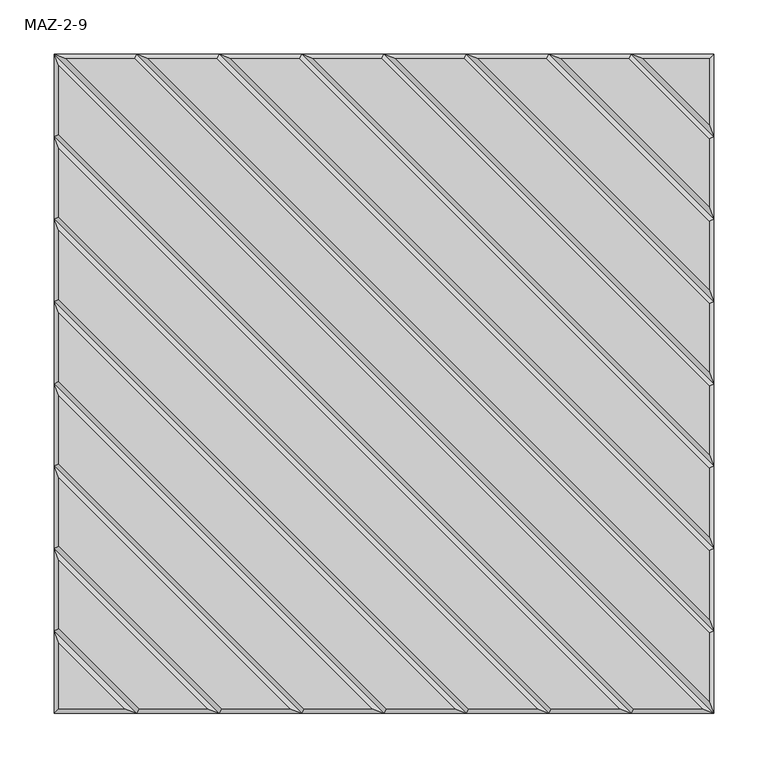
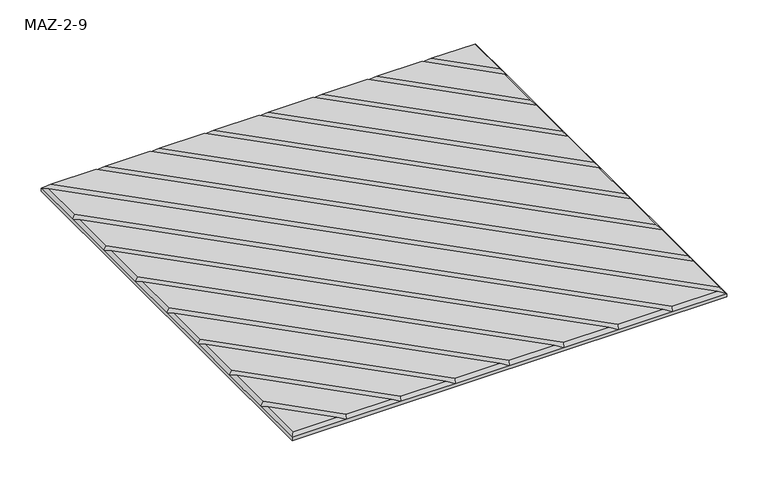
"""IFC4 building model written with IfcOpenShell, lengths in millimetres: proxy geometry, Turf_Wall Tile_Maze : MAZ-2-9."""

from ifc_helpers import new_model, si_unit, origin, place, context, project, spatial, faceted_brep, source, transform, mapped, element, save


def maz_2_9_c834c103(model_context):
    return source(origin(), model_context, "Body", "Brep", [
        faceted_brep([(-304.8, -228.6, 10.85), (-304.8, -152.4, 10.85), (-304.8, -76.2, 10.85), (-304.8, 0.0, 10.85), (-304.8, 76.2, 10.85), (-304.8, 152.4, 10.85), (-304.8, 228.6, 10.85), (-304.8, 304.8, 10.85), (-304.8, 304.8, 6.35), (-304.8, -304.8, 6.35), (-304.8, -304.8, 10.85), (228.6, -304.8, 10.85), (152.4, -304.8, 10.85), (76.2, -304.8, 10.85), (0.0, -304.8, 10.85), (-76.2, -304.8, 10.85), (-152.4, -304.8, 10.85), (-228.6, -304.8, 10.85), (304.8, -304.8, 6.35), (304.8, -304.8, 10.85), (300.3, 300.3, 15.35), (239.463961, 300.3, 15.35), (300.3, 239.463961, 15.35), (304.8, 304.8, 6.35), (-226.736039, -300.3, 15.35), (-300.3, -226.736039, 15.35), (-239.463961, -300.3, 15.35), (-300.3, -239.463961, 15.35), (228.6, 304.8, 10.85), (304.8, 228.6, 10.85), (226.736039, 300.3, 15.35), (300.3, 226.736039, 15.35), (-293.936039, 300.3, 15.35), (300.3, -293.936039, 15.35), (217.736039, -300.3, 15.35), (-300.3, 217.736039, 15.35), (152.4, 304.8, 10.85), (150.536039, 300.3, 15.35), (300.3, 150.536039, 15.35), (304.8, 152.4, 10.85), (-150.536039, -300.3, 15.35), (-300.3, -150.536039, 15.35), (-10.863961, -300.3, 15.35), (-300.3, -10.863961, 15.35), (-76.2, 304.8, 10.85), (-78.063961, 300.3, 15.35), (300.3, -78.063961, 15.35), (304.8, -76.2, 10.85), (-152.4, 304.8, 10.85), (-154.263961, 300.3, 15.35), (300.3, -154.263961, 15.35), (304.8, -152.4, 10.85), (163.263961, 300.3, 15.35), (300.3, 163.263961, 15.35), (-300.3, -300.3, 15.35), (-300.3, 293.936039, 15.35), (-300.3, 230.463961, 15.35), (230.463961, -300.3, 15.35), (293.936039, -300.3, 15.35), (154.263961, -300.3, 15.35), (-300.3, 154.263961, 15.35), (-141.536039, 300.3, 15.35), (300.3, -141.536039, 15.35), (78.063961, -300.3, 15.35), (141.536039, -300.3, 15.35), (-300.3, 141.536039, 15.35), (-300.3, 78.063961, 15.35), (-1.863961, 300.3, 15.35), (-65.336039, 300.3, 15.35), (300.3, -65.336039, 15.35), (300.3, -1.863961, 15.35), (1.863961, -300.3, 15.35), (65.336039, -300.3, 15.35), (-300.3, 65.336039, 15.35), (-300.3, 1.863961, 15.35), (-74.336039, -300.3, 15.35), (-300.3, -74.336039, 15.35), (-87.063961, -300.3, 15.35), (-300.3, -87.063961, 15.35), (-163.263961, -300.3, 15.35), (-300.3, -163.263961, 15.35), (74.336039, 300.3, 15.35), (10.863961, 300.3, 15.35), (300.3, 10.863961, 15.35), (300.3, 74.336039, 15.35), (87.063961, 300.3, 15.35), (300.3, 87.063961, 15.35), (-217.736039, 300.3, 15.35), (300.3, -217.736039, 15.35), (-230.463961, 300.3, 15.35), (300.3, -230.463961, 15.35), (-228.6, 304.8, 10.85), (304.8, -228.6, 10.85), (76.2, 304.8, 10.85), (304.8, 76.2, 10.85), (0.0, 304.8, 10.85), (304.8, 0.0, 10.85), (304.8, 304.8, 10.85)], [[[0, 1, 2, 3, 4, 5, 6, 7, 8, 9, 10]], [[11, 12, 13, 14, 15, 16, 17, 10, 9, 18, 19]], [[20, 21, 22]], [[8, 23, 18, 9]], [[17, 24, 25, 0]], [[26, 17, 0, 27]], [[21, 28, 29, 22]], [[28, 30, 31, 29]], [[32, 7, 19, 33]], [[34, 11, 6, 35]], [[36, 37, 38, 39]], [[16, 40, 41, 1]], [[42, 14, 3, 43]], [[44, 45, 46, 47]], [[48, 49, 50, 51]], [[52, 36, 39, 53]], [[54, 26, 27]], [[30, 52, 53, 31]], [[55, 56, 57, 58]], [[59, 34, 35, 60]], [[45, 61, 62, 46]], [[63, 64, 65, 66]], [[67, 68, 69, 70]], [[71, 72, 73, 74]], [[75, 42, 43, 76]], [[40, 77, 78, 41]], [[24, 79, 80, 25]], [[81, 82, 83, 84]], [[37, 85, 86, 38]], [[49, 87, 88, 50]], [[89, 32, 33, 90]], [[58, 19, 7, 55]], [[87, 91, 92, 88]], [[61, 48, 51, 62]], [[64, 12, 5, 65]], [[85, 93, 94, 86]], [[82, 95, 96, 83]], [[93, 81, 84, 94]], [[68, 44, 47, 69]], [[95, 67, 70, 96]], [[79, 16, 1, 80]], [[77, 15, 2, 78]], [[15, 75, 76, 2]], [[72, 13, 4, 73]], [[14, 71, 74, 3]], [[13, 63, 66, 4]], [[12, 59, 60, 5]], [[91, 89, 90, 92]], [[11, 57, 56, 6]], [[97, 29, 39, 94, 96, 47, 51, 92, 19, 18, 23]], [[28, 97, 23, 8, 7, 91, 48, 44, 95, 93, 36]], [[63, 13, 12, 64]], [[17, 16, 79, 24]], [[15, 14, 42, 75]], [[54, 10, 17, 26]], [[72, 71, 14, 13]], [[57, 11, 19, 58]], [[40, 16, 15, 77]], [[34, 59, 12, 11]], [[68, 67, 95, 44]], [[28, 36, 52, 30]], [[48, 91, 87, 49]], [[45, 44, 48, 61]], [[82, 81, 93, 95]], [[32, 89, 91, 7]], [[85, 37, 36, 93]], [[20, 97, 28, 21]], [[0, 10, 54, 27]], [[4, 3, 74, 73]], [[3, 2, 76, 43]], [[41, 78, 2, 1]], [[35, 6, 5, 60]], [[25, 80, 1, 0]], [[5, 4, 66, 65]], [[55, 7, 6, 56]], [[50, 88, 92, 51]], [[90, 33, 19, 92]], [[31, 53, 39, 29]], [[47, 96, 70, 69]], [[62, 51, 47, 46]], [[96, 94, 84, 83]], [[38, 86, 94, 39]], [[22, 29, 97, 20]]]),
    ])


if __name__ == "__main__":
    model = new_model("IFC4")
    model_context = context("Model", 3, world=origin())
    ifc_project = project(units=[si_unit("LENGTHUNIT", "METRE", prefix="MILLI")], contexts=[model_context])
    site = spatial("IfcSite", under=ifc_project)
    building = spatial("IfcBuilding", under=site)
    placement = place(None, origin())
    maz_2_9_shape = maz_2_9_c834c103(model_context)
    element("IfcBuildingElementProxy", 1, Name="Turf_Wall Tile_Maze : MAZ-2-9", ObjectType="Turf_Wall Tile_Maze : MAZ-2-9", at=placement, inside=building, context=model_context, shape_type="MappedRepresentation", body=[
        mapped(maz_2_9_shape, transform((0.0, 0.0, 0.0), x_axis=(1.0, 0.0, 0.0), y_axis=(0.0, 1.0, 0.0), z_axis=(0.0, 0.0, 1.0))),
    ])
    save(model, "model.ifc")
